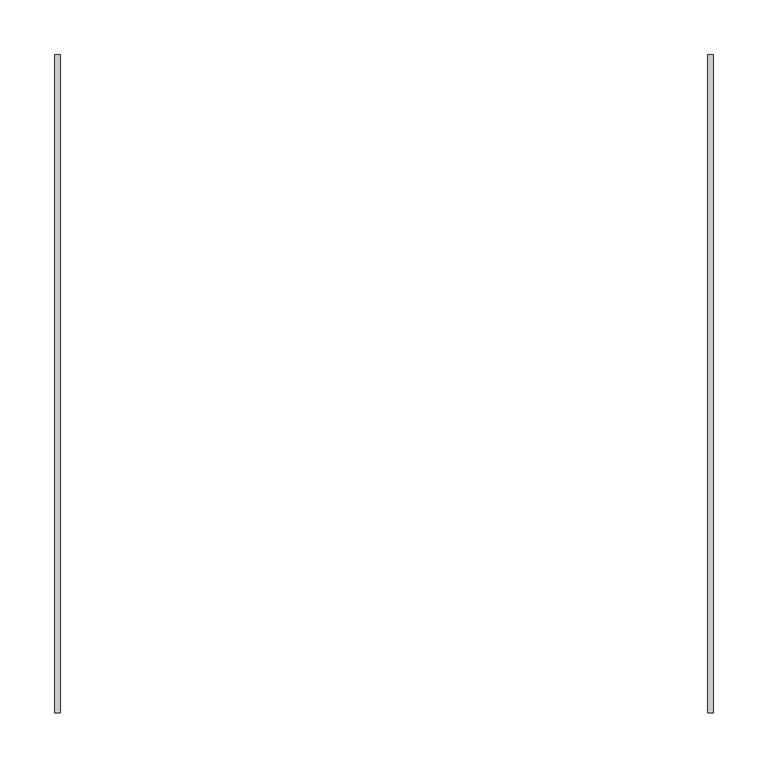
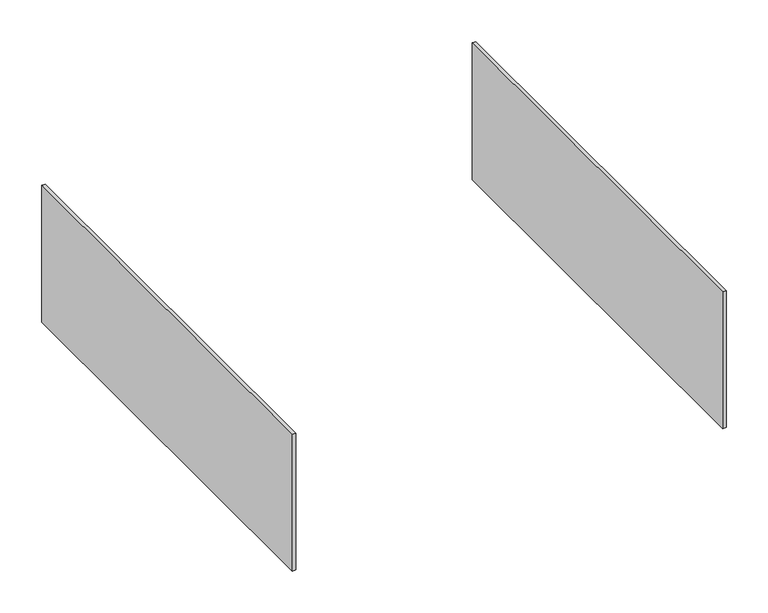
"""IFC4 building model written with IfcOpenShell, lengths in millimetres: electric distribution board geometry, DKC_Цоколь фланцы : DKC_Цоколь фланцы."""

from ifc_helpers import new_model, si_unit, origin, origin_with_axes, place, context, project, spatial, polyline, outline, extrude, source, transform, mapped, element, save


def electric_distribution_board_ae1be2d7(model_context):
    return source(origin(), model_context, "Body", "SweptSolid", [
        extrude(outline(polyline([(-300.0, -300.0), (-300.0, 300.0), (-295.0, 300.0), (-295.0, -300.0), (-300.0, -300.0)])), origin_with_axes(), (0.0, 0.0, 1.0), 200.0),
        extrude(outline(polyline([(300.0, 300.0), (300.0, -300.0), (295.0, -300.0), (295.0, 300.0), (300.0, 300.0)])), origin_with_axes(), (0.0, 0.0, 1.0), 200.0),
    ])


if __name__ == "__main__":
    model = new_model("IFC4")
    model_context = context("Model", 3, world=origin())
    ifc_project = project(units=[si_unit("LENGTHUNIT", "METRE", prefix="MILLI")], contexts=[model_context])
    site = spatial("IfcSite", under=ifc_project)
    building = spatial("IfcBuilding", under=site)
    placement = place(None, origin())
    electric_distribution_board_shape = electric_distribution_board_ae1be2d7(model_context)
    element("IfcElectricDistributionBoard", 1, ObjectType="DKC_Цоколь фланцы : DKC_Цоколь фланцы", at=placement, inside=building, context=model_context, shape_type="MappedRepresentation", body=[
        mapped(electric_distribution_board_shape, transform((0.0, 0.0, 0.0), x_axis=(1.0, 0.0, 0.0), y_axis=(0.0, 1.0, 0.0), z_axis=(0.0, 0.0, 1.0))),
    ])
    save(model, "model.ifc")
